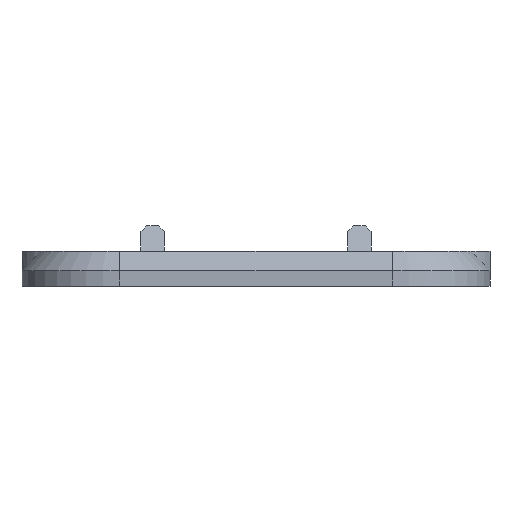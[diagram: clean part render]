
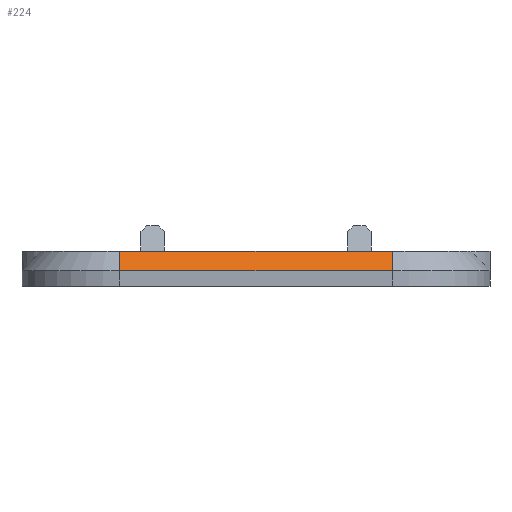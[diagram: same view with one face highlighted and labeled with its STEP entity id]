
A CAD part, front view. The second image highlights one B-rep face of the part: STEP entity #224.
In plain terms, the highlighted planar face has unit normal (0, -0.707, 0.707).
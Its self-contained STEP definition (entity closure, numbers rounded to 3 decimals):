
#24 = VERTEX_POINT('',#25);
#25 = CARTESIAN_POINT('',(10.,0.,25.6));
#32 = PLANE('',#33);
#33 = AXIS2_PLACEMENT_3D('',#34,#35,#36);
#34 = CARTESIAN_POINT('',(0.,0.,24.));
#35 = DIRECTION('',(0.,1.,0.));
#36 = DIRECTION('',(1.,0.,0.));
#56 = EDGE_CURVE('',#57,#24,#59,.T.);
#57 = VERTEX_POINT('',#58);
#58 = CARTESIAN_POINT('',(38.,0.,25.6));
#59 = SURFACE_CURVE('',#60,(#64,#71),.PCURVE_S1.);
#60 = LINE('',#61,#62);
#61 = CARTESIAN_POINT('',(38.,0.,25.6));
#62 = VECTOR('',#63,1.);
#63 = DIRECTION('',(-1.,-0.,-0.));
#64 = PCURVE('',#32,#65);
#65 = DEFINITIONAL_REPRESENTATION('',(#66),#70);
#66 = LINE('',#67,#68);
#67 = CARTESIAN_POINT('',(38.,-1.6));
#68 = VECTOR('',#69,1.);
#69 = DIRECTION('',(-1.,0.));
#70 = ( GEOMETRIC_REPRESENTATION_CONTEXT(2) 
PARAMETRIC_REPRESENTATION_CONTEXT() REPRESENTATION_CONTEXT('2D SPACE',''
  ) );
#71 = PCURVE('',#72,#77);
#72 = PLANE('',#73);
#73 = AXIS2_PLACEMENT_3D('',#74,#75,#76);
#74 = CARTESIAN_POINT('',(38.,1.,26.6));
#75 = DIRECTION('',(0.,0.707,-0.707));
#76 = DIRECTION('',(-1.,0.,-0.));
#77 = DEFINITIONAL_REPRESENTATION('',(#78),#82);
#78 = LINE('',#79,#80);
#79 = CARTESIAN_POINT('',(0.,-1.414));
#80 = VECTOR('',#81,1.);
#81 = DIRECTION('',(1.,0.));
#82 = ( GEOMETRIC_REPRESENTATION_CONTEXT(2) 
PARAMETRIC_REPRESENTATION_CONTEXT() REPRESENTATION_CONTEXT('2D SPACE',''
  ) );
#213 = CONICAL_SURFACE('',#214,10.,0.785);
#214 = AXIS2_PLACEMENT_3D('',#215,#216,#217);
#215 = CARTESIAN_POINT('',(10.,10.,25.6));
#216 = DIRECTION('',(-0.,-0.,-1.));
#217 = DIRECTION('',(0.,-1.,0.));
#224 = ADVANCED_FACE('',(#225),#72,.F.);
#225 = FACE_BOUND('',#226,.F.);
#226 = EDGE_LOOP('',(#227,#253,#254,#275));
#227 = ORIENTED_EDGE('',*,*,#228,.F.);
#228 = EDGE_CURVE('',#57,#229,#231,.T.);
#229 = VERTEX_POINT('',#230);
#230 = CARTESIAN_POINT('',(38.,2.,27.6));
#231 = SURFACE_CURVE('',#232,(#236,#242),.PCURVE_S1.);
#232 = LINE('',#233,#234);
#233 = CARTESIAN_POINT('',(38.,0.,25.6));
#234 = VECTOR('',#235,1.);
#235 = DIRECTION('',(0.,0.707,0.707));
#236 = PCURVE('',#72,#237);
#237 = DEFINITIONAL_REPRESENTATION('',(#238),#241);
#238 = B_SPLINE_CURVE_WITH_KNOTS('',1,(#239,#240),.UNSPECIFIED.,.F.,.F.,
  (2,2),(0.,2.828),.PIECEWISE_BEZIER_KNOTS.);
#239 = CARTESIAN_POINT('',(0.,-1.414));
#240 = CARTESIAN_POINT('',(0.,1.414));
#241 = ( GEOMETRIC_REPRESENTATION_CONTEXT(2) 
PARAMETRIC_REPRESENTATION_CONTEXT() REPRESENTATION_CONTEXT('2D SPACE',''
  ) );
#242 = PCURVE('',#243,#248);
#243 = CONICAL_SURFACE('',#244,10.,0.785);
#244 = AXIS2_PLACEMENT_3D('',#245,#246,#247);
#245 = CARTESIAN_POINT('',(38.,10.,25.6));
#246 = DIRECTION('',(-0.,-0.,-1.));
#247 = DIRECTION('',(1.,0.,0.));
#248 = DEFINITIONAL_REPRESENTATION('',(#249),#252);
#249 = B_SPLINE_CURVE_WITH_KNOTS('',1,(#250,#251),.UNSPECIFIED.,.F.,.F.,
  (2,2),(0.,2.828),.PIECEWISE_BEZIER_KNOTS.);
#250 = CARTESIAN_POINT('',(1.571,0.));
#251 = CARTESIAN_POINT('',(1.571,-2.));
#252 = ( GEOMETRIC_REPRESENTATION_CONTEXT(2) 
PARAMETRIC_REPRESENTATION_CONTEXT() REPRESENTATION_CONTEXT('2D SPACE',''
  ) );
#253 = ORIENTED_EDGE('',*,*,#56,.T.);
#254 = ORIENTED_EDGE('',*,*,#255,.T.);
#255 = EDGE_CURVE('',#24,#256,#258,.T.);
#256 = VERTEX_POINT('',#257);
#257 = CARTESIAN_POINT('',(10.,2.,27.6));
#258 = SURFACE_CURVE('',#259,(#263,#269),.PCURVE_S1.);
#259 = LINE('',#260,#261);
#260 = CARTESIAN_POINT('',(10.,1.,26.6));
#261 = VECTOR('',#262,1.);
#262 = DIRECTION('',(0.,0.707,0.707));
#263 = PCURVE('',#72,#264);
#264 = DEFINITIONAL_REPRESENTATION('',(#265),#268);
#265 = B_SPLINE_CURVE_WITH_KNOTS('',1,(#266,#267),.UNSPECIFIED.,.F.,.F.,
  (2,2),(-1.414,1.414),.PIECEWISE_BEZIER_KNOTS.);
#266 = CARTESIAN_POINT('',(28.,-1.414));
#267 = CARTESIAN_POINT('',(28.,1.414));
#268 = ( GEOMETRIC_REPRESENTATION_CONTEXT(2) 
PARAMETRIC_REPRESENTATION_CONTEXT() REPRESENTATION_CONTEXT('2D SPACE',''
  ) );
#269 = PCURVE('',#213,#270);
#270 = DEFINITIONAL_REPRESENTATION('',(#271),#274);
#271 = B_SPLINE_CURVE_WITH_KNOTS('',1,(#272,#273),.UNSPECIFIED.,.F.,.F.,
  (2,2),(-1.414,1.414),.PIECEWISE_BEZIER_KNOTS.);
#272 = CARTESIAN_POINT('',(0.,0.));
#273 = CARTESIAN_POINT('',(0.,-2.));
#274 = ( GEOMETRIC_REPRESENTATION_CONTEXT(2) 
PARAMETRIC_REPRESENTATION_CONTEXT() REPRESENTATION_CONTEXT('2D SPACE',''
  ) );
#275 = ORIENTED_EDGE('',*,*,#276,.F.);
#276 = EDGE_CURVE('',#229,#256,#277,.T.);
#277 = SURFACE_CURVE('',#278,(#282,#289),.PCURVE_S1.);
#278 = LINE('',#279,#280);
#279 = CARTESIAN_POINT('',(38.,2.,27.6));
#280 = VECTOR('',#281,1.);
#281 = DIRECTION('',(-1.,-0.,-0.));
#282 = PCURVE('',#72,#283);
#283 = DEFINITIONAL_REPRESENTATION('',(#284),#288);
#284 = LINE('',#285,#286);
#285 = CARTESIAN_POINT('',(0.,1.414));
#286 = VECTOR('',#287,1.);
#287 = DIRECTION('',(1.,0.));
#288 = ( GEOMETRIC_REPRESENTATION_CONTEXT(2) 
PARAMETRIC_REPRESENTATION_CONTEXT() REPRESENTATION_CONTEXT('2D SPACE',''
  ) );
#289 = PCURVE('',#290,#295);
#290 = PLANE('',#291);
#291 = AXIS2_PLACEMENT_3D('',#292,#293,#294);
#292 = CARTESIAN_POINT('',(24.,43.5,27.6));
#293 = DIRECTION('',(0.,0.,1.));
#294 = DIRECTION('',(1.,0.,-0.));
#295 = DEFINITIONAL_REPRESENTATION('',(#296),#300);
#296 = LINE('',#297,#298);
#297 = CARTESIAN_POINT('',(14.,-41.5));
#298 = VECTOR('',#299,1.);
#299 = DIRECTION('',(-1.,0.));
#300 = ( GEOMETRIC_REPRESENTATION_CONTEXT(2) 
PARAMETRIC_REPRESENTATION_CONTEXT() REPRESENTATION_CONTEXT('2D SPACE',''
  ) );
